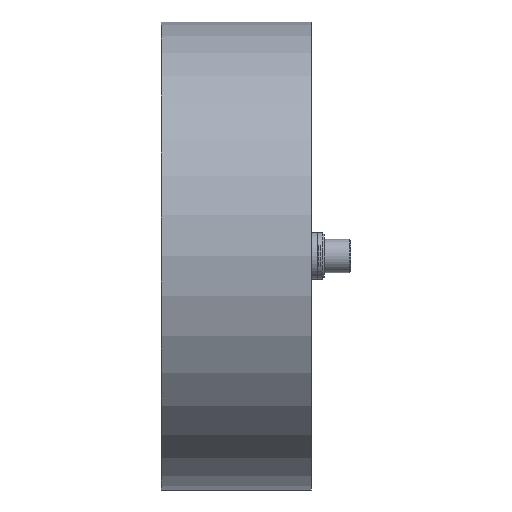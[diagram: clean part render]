
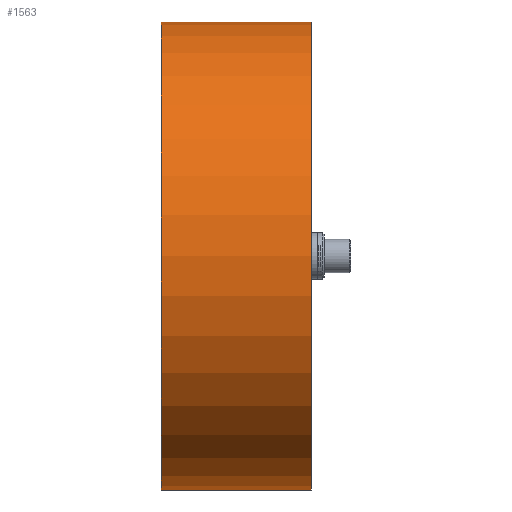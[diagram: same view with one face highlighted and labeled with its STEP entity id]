
A CAD part, top view. The second image highlights one B-rep face of the part: STEP entity #1563.
In plain terms, the highlighted cylindrical face has radius 70.15 mm (diameter 140.3 mm), a partial arc.
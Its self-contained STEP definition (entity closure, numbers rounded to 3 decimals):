
#7=CARTESIAN_POINT('',(0.,0.,0.));
#8=DIRECTION('',(1.,0.,0.));
#9=DIRECTION('',(0.,1.,0.));
#10=AXIS2_PLACEMENT_3D('',#7,#8,#9);
#22=DIRECTION('',(1.,0.,0.));
#23=VECTOR('',#22,45.);
#24=CARTESIAN_POINT('',(0.,-70.15,0.));
#25=LINE('',#24,#23);
#26=DIRECTION('',(1.,0.,0.));
#27=VECTOR('',#26,45.);
#28=CARTESIAN_POINT('',(0.,70.15,0.));
#29=LINE('',#28,#27);
#35=CARTESIAN_POINT('',(45.,0.,0.));
#36=DIRECTION('',(1.,0.,0.));
#37=DIRECTION('',(0.,1.,0.));
#38=AXIS2_PLACEMENT_3D('',#35,#36,#37);
#1310=CARTESIAN_POINT('',(0.,-70.15,0.));
#1311=CARTESIAN_POINT('',(0.,70.15,0.));
#1312=VERTEX_POINT('',#1310);
#1313=VERTEX_POINT('',#1311);
#1314=CARTESIAN_POINT('',(45.,-70.15,0.));
#1315=CARTESIAN_POINT('',(45.,70.15,0.));
#1316=VERTEX_POINT('',#1314);
#1317=VERTEX_POINT('',#1315);
#1551=CARTESIAN_POINT('',(0.,0.,0.));
#1552=DIRECTION('',(1.,0.,0.));
#1553=DIRECTION('',(0.,-1.,0.));
#1554=AXIS2_PLACEMENT_3D('',#1551,#1552,#1553);
#1555=CYLINDRICAL_SURFACE('',#1554,70.15);
#1556=ORIENTED_EDGE('',*,*,#1525,.F.);
#1557=ORIENTED_EDGE('',*,*,#1546,.T.);
#1559=ORIENTED_EDGE('',*,*,#1558,.T.);
#1560=ORIENTED_EDGE('',*,*,#1542,.F.);
#1561=EDGE_LOOP('',(#1556,#1557,#1559,#1560));
#1562=FACE_OUTER_BOUND('',#1561,.F.);
#1563=ADVANCED_FACE('',(#1562),#1555,.T.);
#11=CIRCLE('',#10,70.15);
#39=CIRCLE('',#38,70.15);
#1525=EDGE_CURVE('',#1313,#1312,#11,.T.);
#1542=EDGE_CURVE('',#1312,#1316,#25,.T.);
#1546=EDGE_CURVE('',#1313,#1317,#29,.T.);
#1558=EDGE_CURVE('',#1317,#1316,#39,.T.);
